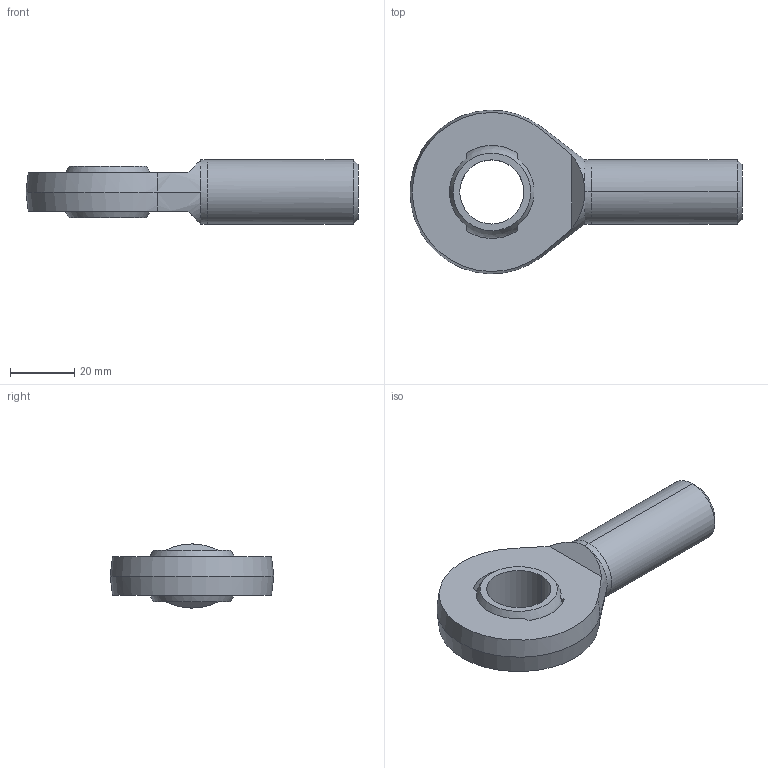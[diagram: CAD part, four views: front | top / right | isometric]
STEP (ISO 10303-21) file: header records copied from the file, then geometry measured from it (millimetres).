
FILE_DESCRIPTION (( 'STEP AP203' ), '1' );
FILE_NAME ('65860.W0520.step', '2014-02-06T11:41:12', ( 'User' ), ( '' ), 'SwSTEP 2.0', 'SolidWorks 2009', '' );
FILE_SCHEMA (( 'CONFIG_CONTROL_DESIGN' ));
Length unit declared in the file: millimetre
Products named in the file (3): Part1_65860.W0520; Part2_65860.W0520; 65860.W0520
Assembly tree (2 placements, depth 2):
  65860.W0520
    Part1_65860.W0520
    Part2_65860.W0520
Bounding box: 103.5 x 50.97 x 20 mm (x, y, z)
Volume: 37966.9 mm3; surface area: 11977 mm2
Topology: 2 solids, 2 shells, 35 faces, 82 edges, 51 vertices
Faces by surface type: plane 15, sphere 8, cylinder 8, cone 4
Entity records: 1357 total; most frequent: CARTESIAN_POINT 231, DIRECTION 196, ORIENTED_EDGE 160, AXIS2_PLACEMENT_3D 84, EDGE_CURVE 80, VERTEX_POINT 51, CIRCLE 44, EDGE_LOOP 41
